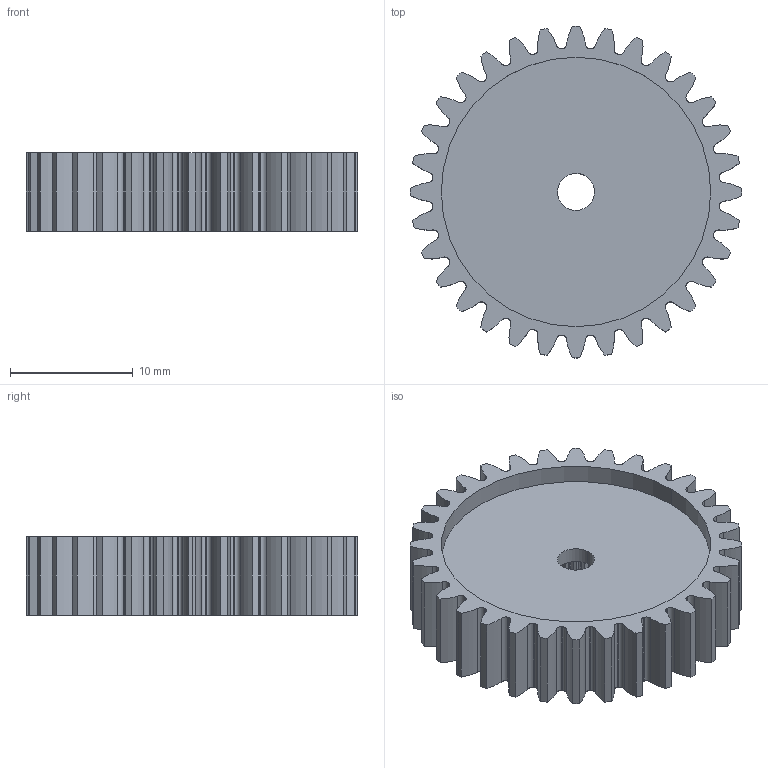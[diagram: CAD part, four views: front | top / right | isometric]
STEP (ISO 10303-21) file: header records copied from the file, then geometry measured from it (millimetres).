
FILE_DESCRIPTION (( 'STEP AP203' ), '1' );
FILE_NAME ('615310.STEP', '2016-10-04T20:28:18', ( '' ), ( '' ), 'SwSTEP 2.0', 'SolidWorks 2014', '' );
FILE_SCHEMA (( 'CONFIG_CONTROL_DESIGN' ));
Length unit declared in the file: millimetre
Products named in the file (1): 615310
Bounding box: 26.99 x 26.99 x 6.35 mm (x, y, z)
Volume: 1880.6 mm3; surface area: 2398.7 mm2
Topology: 1 solids, 1 shells, 374 faces, 1101 edges, 734 vertices
Faces by surface type: bspline 128, cylinder 125, plane 121
Entity records: 16868 total; most frequent: CARTESIAN_POINT 7458, ORIENTED_EDGE 2202, DIRECTION 1589, EDGE_CURVE 1101, VERTEX_POINT 734, LINE 595, VECTOR 595, AXIS2_PLACEMENT_3D 497
